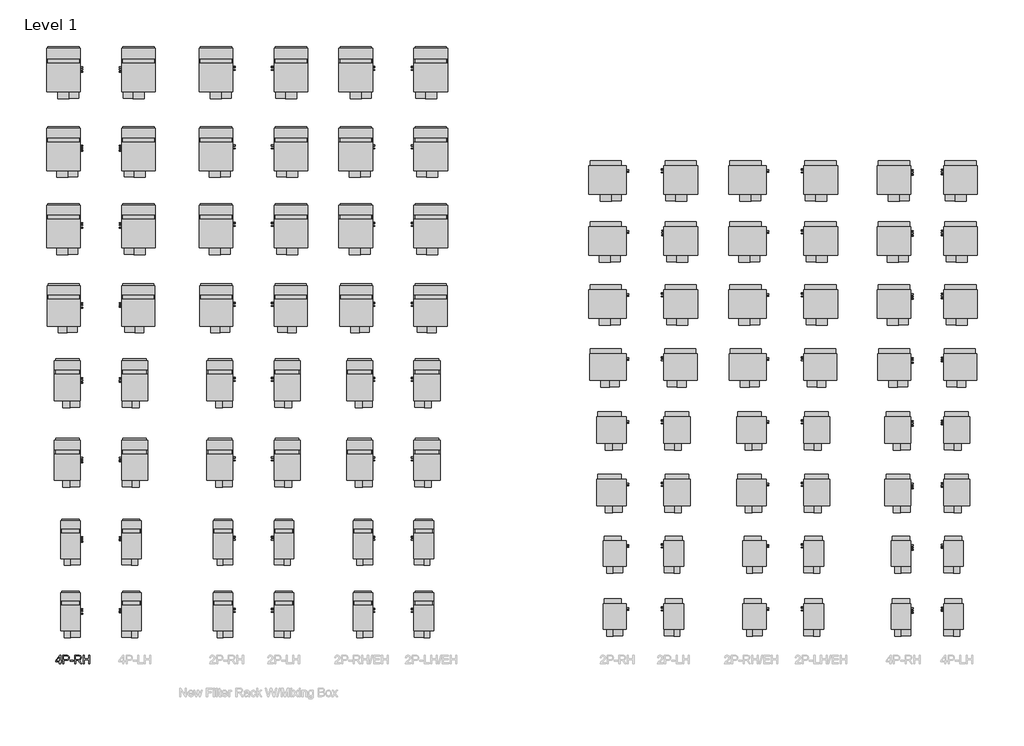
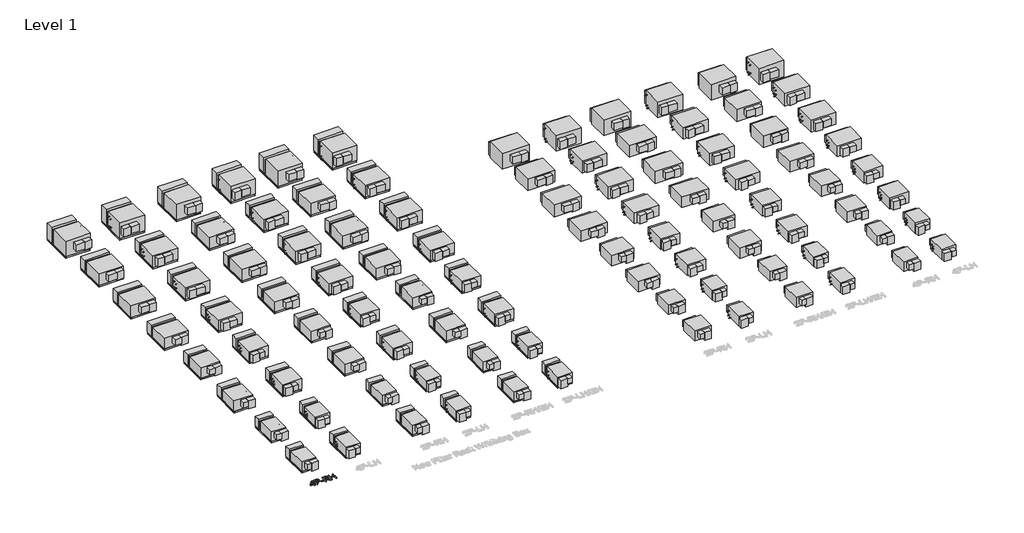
# One storey, part 1 of 3: 97 proxies.
"""IFC4 building model written with IfcOpenShell, lengths in millimetres."""

from ifc_helpers import new_model, si_unit, frame, origin, place, context, project, spatial, polyline, outline, extrude, transform, mapped, element, save
from components import mechanical_equipment_5b5a3d8c, mechanical_equipment_4589439a, mechanical_equipment_856d1f65, mechanical_equipment_ee0adb7a, mechanical_equipment_8eea2e23, mechanical_equipment_e72ba846, mechanical_equipment_ac6293c1, mechanical_equipment_eb9e6e73, mechanical_equipment_0b7b95ba, mechanical_equipment_1df3aa0c, mechanical_equipment_ef40f588, mechanical_equipment_6f507d88, mechanical_equipment_deafffc9, mechanical_equipment_b93dabfb, mechanical_equipment_bab576e5, mechanical_equipment_4b47fb68, mechanical_equipment_84091f5d, mechanical_equipment_c9cec046, mechanical_equipment_6f3378f6, mechanical_equipment_5e05b3fe, mechanical_equipment_9a06b835, mechanical_equipment_32fd8639, mechanical_equipment_eb787f7f, mechanical_equipment_c15f7967, mechanical_equipment_e2a74134, mechanical_equipment_f30141e5, mechanical_equipment_1eb6b717, mechanical_equipment_b74952a9, mechanical_equipment_e52b0f82, mechanical_equipment_f7677014, mechanical_equipment_0e213d63, mechanical_equipment_8ebf37a6, mechanical_equipment_2bbc750a, mechanical_equipment_9a64f870, mechanical_equipment_3ddea443, mechanical_equipment_db932000, mechanical_equipment_160c7145, mechanical_equipment_b177c8d8, mechanical_equipment_4713f80c, mechanical_equipment_2b0987d8

model = new_model("IFC4")

# Units and contexts
model_context = context("Model", 3, world=origin())
ifc_project = project(units=[si_unit("LENGTHUNIT", "METRE", prefix="MILLI")], contexts=[model_context])

# Site, building, storey
site = spatial("IfcSite", under=ifc_project)
building = spatial("IfcBuilding", under=site)
storey = spatial("IfcBuildingStorey", under=building, Name="Level 1", Elevation=0.0)

# Proxies
placement = place(None, origin())
mechanical_equipment_shape = mechanical_equipment_5b5a3d8c(model_context)
element("IfcBuildingElementProxy", 1, Name="Horizontal_Direct_Drive_Blower_Coil_Unit_-_42DHA_-_CARRIER_-_2-Pipe_Cool-EHeat_LH_2022 : Size 06 - 460v/60Hz/3Ph - 8 Row 6.0kW LH", ObjectType="Horizontal_Direct_Drive_Blower_Coil_Unit_-_42DHA_-_CARRIER_-_2-Pipe_Cool-EHeat_LH_2022 : Size 06 - 460v/60Hz/3Ph - 8 Row 6.0kW LH", at=placement, inside=storey, context=model_context, shape_type="MappedRepresentation", body=[
    mapped(mechanical_equipment_shape, transform((-13746.5319562, -11276.088413, 0.0), x_axis=(1.0, 0.0, 0.0), y_axis=(0.0, 1.0, 0.0), z_axis=(0.0, 0.0, 1.0))),
])
element("IfcBuildingElementProxy", 2, Name="Horizontal_Direct_Drive_Blower_Coil_Unit_-_42DHA_-_CARRIER_-_2-Pipe_Cool-EHeat_LH_2022 : Size 08 - 460v/60Hz/3Ph - 8 Row 8.0kW LH", ObjectType="Horizontal_Direct_Drive_Blower_Coil_Unit_-_42DHA_-_CARRIER_-_2-Pipe_Cool-EHeat_LH_2022 : Size 08 - 460v/60Hz/3Ph - 8 Row 8.0kW LH", at=placement, inside=storey, context=model_context, shape_type="MappedRepresentation", body=[
    mapped(mechanical_equipment_shape, transform((-13746.5319562, -9011.7611308, 0.0), x_axis=(1.0, 0.0, 0.0), y_axis=(0.0, 1.0, 0.0), z_axis=(0.0, 0.0, 1.0))),
])
mechanical_equipment_2_shape = mechanical_equipment_4589439a(model_context)
element("IfcBuildingElementProxy", 3, Name="Horizontal_Direct_Drive_Blower_Coil_Unit_-_42DHA_-_CARRIER_-_2-Pipe_Cool-EHeat_LH_2022 : Size 10 - 460v/60Hz/3Ph - 8 Row 9.9kW LH", ObjectType="Horizontal_Direct_Drive_Blower_Coil_Unit_-_42DHA_-_CARRIER_-_2-Pipe_Cool-EHeat_LH_2022 : Size 10 - 460v/60Hz/3Ph - 8 Row 9.9kW LH", at=placement, inside=storey, context=model_context, shape_type="MappedRepresentation", body=[
    mapped(mechanical_equipment_2_shape, transform((-13746.5319562, -6799.1440762, 0.0), x_axis=(1.0, 0.0, 0.0), y_axis=(0.0, 1.0, 0.0), z_axis=(0.0, 0.0, 1.0))),
])
element("IfcBuildingElementProxy", 4, Name="Horizontal_Direct_Drive_Blower_Coil_Unit_-_42DHA_-_CARRIER_-_2-Pipe_Cool-EHeat_LH_2022 : Size 12 - 460v/60Hz/3Ph - 8 Row 12.0kW LH", ObjectType="Horizontal_Direct_Drive_Blower_Coil_Unit_-_42DHA_-_CARRIER_-_2-Pipe_Cool-EHeat_LH_2022 : Size 12 - 460v/60Hz/3Ph - 8 Row 12.0kW LH", at=placement, inside=storey, context=model_context, shape_type="MappedRepresentation", body=[
    mapped(mechanical_equipment_2_shape, transform((-13746.5319562, -4546.6101653, 0.0), x_axis=(1.0, 0.0, 0.0), y_axis=(0.0, 1.0, 0.0), z_axis=(0.0, 0.0, 1.0))),
])
mechanical_equipment_3_shape = mechanical_equipment_856d1f65(model_context)
element("IfcBuildingElementProxy", 5, Name="Horizontal_Direct_Drive_Blower_Coil_Unit_-_42DHA_-_CARRIER_-_2-Pipe_Cool-EHeat_LH_2022 : Size 16 - 460v/60Hz/3Ph - 8 Row 16.0kW LH", ObjectType="Horizontal_Direct_Drive_Blower_Coil_Unit_-_42DHA_-_CARRIER_-_2-Pipe_Cool-EHeat_LH_2022 : Size 16 - 460v/60Hz/3Ph - 8 Row 16.0kW LH", at=placement, inside=storey, context=model_context, shape_type="MappedRepresentation", body=[
    mapped(mechanical_equipment_3_shape, transform((-13746.5319562, -2279.1078831, 0.0), x_axis=(1.0, 0.0, 0.0), y_axis=(0.0, 1.0, 0.0), z_axis=(0.0, 0.0, 1.0))),
])
mechanical_equipment_4_shape = mechanical_equipment_ee0adb7a(model_context)
element("IfcBuildingElementProxy", 6, Name="Horizontal_Direct_Drive_Blower_Coil_Unit_-_42DHA_-_CARRIER_-_2-Pipe_Cool-EHeat_LH_2022 : Size 20 - 460v/60Hz/3Ph - 8 Row 19.9kW LH", ObjectType="Horizontal_Direct_Drive_Blower_Coil_Unit_-_42DHA_-_CARRIER_-_2-Pipe_Cool-EHeat_LH_2022 : Size 20 - 460v/60Hz/3Ph - 8 Row 19.9kW LH", at=placement, inside=storey, context=model_context, shape_type="MappedRepresentation", body=[
    mapped(mechanical_equipment_4_shape, transform((-13746.5319562, 16.969399, 0.0), x_axis=(1.0, 0.0, 0.0), y_axis=(0.0, 1.0, 0.0), z_axis=(0.0, 0.0, 1.0))),
])
element("IfcBuildingElementProxy", 7, Name="Horizontal_Direct_Drive_Blower_Coil_Unit_-_42DHA_-_CARRIER_-_2-Pipe_Cool-EHeat_LH_2022 : Size 22 - 460v/60Hz/3Ph - 8 Row 19.9kW LH", ObjectType="Horizontal_Direct_Drive_Blower_Coil_Unit_-_42DHA_-_CARRIER_-_2-Pipe_Cool-EHeat_LH_2022 : Size 22 - 460v/60Hz/3Ph - 8 Row 19.9kW LH", at=placement, inside=storey, context=model_context, shape_type="MappedRepresentation", body=[
    mapped(mechanical_equipment_4_shape, transform((-13746.5319562, 2283.6722345, 0.0), x_axis=(1.0, 0.0, 0.0), y_axis=(0.0, 1.0, 0.0), z_axis=(0.0, 0.0, 1.0))),
])
mechanical_equipment_5_shape = mechanical_equipment_8eea2e23(model_context)
element("IfcBuildingElementProxy", 8, Name="Horizontal_Direct_Drive_Blower_Coil_Unit_-_42DHA_-_CARRIER_-_2-Pipe_Cool-EHeat_LH_2022 : Size 30 - 460v/60Hz/3Ph - 8 Row 30.0kW LH", ObjectType="Horizontal_Direct_Drive_Blower_Coil_Unit_-_42DHA_-_CARRIER_-_2-Pipe_Cool-EHeat_LH_2022 : Size 30 - 460v/60Hz/3Ph - 8 Row 30.0kW LH", at=placement, inside=storey, context=model_context, shape_type="MappedRepresentation", body=[
    mapped(mechanical_equipment_5_shape, transform((-13746.5319562, 4477.8237983, 0.0), x_axis=(1.0, 0.0, 0.0), y_axis=(0.0, 1.0, 0.0), z_axis=(0.0, 0.0, 1.0))),
])
mechanical_equipment_6_shape = mechanical_equipment_e72ba846(model_context)
element("IfcBuildingElementProxy", 9, Name="Horizontal_Direct_Drive_Blower_Coil_Unit_-_42DHA_-_CARRIER_-_2-Pipe_Cool-EHeat_RH_2022 : Size 06 - 460v/60Hz/3Ph - 8 Row 6.0kW", ObjectType="Horizontal_Direct_Drive_Blower_Coil_Unit_-_42DHA_-_CARRIER_-_2-Pipe_Cool-EHeat_RH_2022 : Size 06 - 460v/60Hz/3Ph - 8 Row 6.0kW", at=placement, inside=storey, context=model_context, shape_type="MappedRepresentation", body=[
    mapped(mechanical_equipment_6_shape, transform((-15935.274823, -11276.088413, 0.0), x_axis=(1.0, 0.0, 0.0), y_axis=(0.0, 1.0, 0.0), z_axis=(0.0, 0.0, 1.0))),
])
element("IfcBuildingElementProxy", 10, Name="Horizontal_Direct_Drive_Blower_Coil_Unit_-_42DHA_-_CARRIER_-_2-Pipe_Cool-EHeat_RH_2022 : Size 08 - 460v/60Hz/3Ph - 8 Row 8.0kW", ObjectType="Horizontal_Direct_Drive_Blower_Coil_Unit_-_42DHA_-_CARRIER_-_2-Pipe_Cool-EHeat_RH_2022 : Size 08 - 460v/60Hz/3Ph - 8 Row 8.0kW", at=placement, inside=storey, context=model_context, shape_type="MappedRepresentation", body=[
    mapped(mechanical_equipment_6_shape, transform((-15935.274823, -9011.7611308, 0.0), x_axis=(1.0, 0.0, 0.0), y_axis=(0.0, 1.0, 0.0), z_axis=(0.0, 0.0, 1.0))),
])
element("IfcBuildingElementProxy", 11, Name="Horizontal_Direct_Drive_Blower_Coil_Unit_-_42DHA_-_CARRIER_-_2-Pipe_Cool-EHeat_RH_2022 : Size 08 - 460v/60Hz/3Ph - 8 Row 8.0kW", ObjectType="Horizontal_Direct_Drive_Blower_Coil_Unit_-_42DHA_-_CARRIER_-_2-Pipe_Cool-EHeat_RH_2022 : Size 08 - 460v/60Hz/3Ph - 8 Row 8.0kW", at=placement, inside=storey, context=model_context, shape_type="MappedRepresentation", body=[
    mapped(mechanical_equipment_6_shape, transform((-20964.474823, -9011.7611308, 0.0), x_axis=(1.0, 0.0, 0.0), y_axis=(0.0, 1.0, 0.0), z_axis=(0.0, 0.0, 1.0))),
])
mechanical_equipment_7_shape = mechanical_equipment_ac6293c1(model_context)
element("IfcBuildingElementProxy", 12, Name="Horizontal_Direct_Drive_Blower_Coil_Unit_-_42DHA_-_CARRIER_-_2-Pipe_Cool-EHeat_RH_2022 : Size 10 - 460v/60Hz/3Ph - 8 Row 9.9kW", ObjectType="Horizontal_Direct_Drive_Blower_Coil_Unit_-_42DHA_-_CARRIER_-_2-Pipe_Cool-EHeat_RH_2022 : Size 10 - 460v/60Hz/3Ph - 8 Row 9.9kW", at=placement, inside=storey, context=model_context, shape_type="MappedRepresentation", body=[
    mapped(mechanical_equipment_7_shape, transform((-16163.874823, -6799.1440762, 0.0), x_axis=(1.0, 0.0, 0.0), y_axis=(0.0, 1.0, 0.0), z_axis=(0.0, 0.0, 1.0))),
])
element("IfcBuildingElementProxy", 13, Name="Horizontal_Direct_Drive_Blower_Coil_Unit_-_42DHA_-_CARRIER_-_2-Pipe_Cool-EHeat_RH_2022 : Size 12 - 460v/60Hz/3Ph - 8 Row 12.0kW", ObjectType="Horizontal_Direct_Drive_Blower_Coil_Unit_-_42DHA_-_CARRIER_-_2-Pipe_Cool-EHeat_RH_2022 : Size 12 - 460v/60Hz/3Ph - 8 Row 12.0kW", at=placement, inside=storey, context=model_context, shape_type="MappedRepresentation", body=[
    mapped(mechanical_equipment_7_shape, transform((-16163.874823, -4546.6101653, 0.0), x_axis=(1.0, 0.0, 0.0), y_axis=(0.0, 1.0, 0.0), z_axis=(0.0, 0.0, 1.0))),
])
mechanical_equipment_8_shape = mechanical_equipment_eb9e6e73(model_context)
element("IfcBuildingElementProxy", 14, Name="Horizontal_Direct_Drive_Blower_Coil_Unit_-_42DHA_-_CARRIER_-_2-Pipe_Cool-EHeat_RH_2022 : Size 16 - 460v/60Hz/3Ph - 8 Row 16.0kW", ObjectType="Horizontal_Direct_Drive_Blower_Coil_Unit_-_42DHA_-_CARRIER_-_2-Pipe_Cool-EHeat_RH_2022 : Size 16 - 460v/60Hz/3Ph - 8 Row 16.0kW", at=placement, inside=storey, context=model_context, shape_type="MappedRepresentation", body=[
    mapped(mechanical_equipment_8_shape, transform((-16417.874823, -2279.1078831, 0.0), x_axis=(1.0, 0.0, 0.0), y_axis=(0.0, 1.0, 0.0), z_axis=(0.0, 0.0, 1.0))),
])
mechanical_equipment_9_shape = mechanical_equipment_0b7b95ba(model_context)
element("IfcBuildingElementProxy", 15, Name="Horizontal_Direct_Drive_Blower_Coil_Unit_-_42DHA_-_CARRIER_-_2-Pipe_Cool-EHeat_RH_2022 : Size 20 - 460v/60Hz/3Ph - 8 Row 19.9kW", ObjectType="Horizontal_Direct_Drive_Blower_Coil_Unit_-_42DHA_-_CARRIER_-_2-Pipe_Cool-EHeat_RH_2022 : Size 20 - 460v/60Hz/3Ph - 8 Row 19.9kW", at=placement, inside=storey, context=model_context, shape_type="MappedRepresentation", body=[
    mapped(mechanical_equipment_9_shape, transform((-16443.274823, 16.969399, 0.0), x_axis=(1.0, 0.0, 0.0), y_axis=(0.0, 1.0, 0.0), z_axis=(0.0, 0.0, 1.0))),
])
element("IfcBuildingElementProxy", 16, Name="Horizontal_Direct_Drive_Blower_Coil_Unit_-_42DHA_-_CARRIER_-_2-Pipe_Cool-EHeat_RH_2022 : Size 22 - 460v/60Hz/3Ph - 8 Row 19.9kW", ObjectType="Horizontal_Direct_Drive_Blower_Coil_Unit_-_42DHA_-_CARRIER_-_2-Pipe_Cool-EHeat_RH_2022 : Size 22 - 460v/60Hz/3Ph - 8 Row 19.9kW", at=placement, inside=storey, context=model_context, shape_type="MappedRepresentation", body=[
    mapped(mechanical_equipment_9_shape, transform((-16443.274823, 2283.6722345, 0.0), x_axis=(1.0, 0.0, 0.0), y_axis=(0.0, 1.0, 0.0), z_axis=(0.0, 0.0, 1.0))),
])
mechanical_equipment_10_shape = mechanical_equipment_1df3aa0c(model_context)
element("IfcBuildingElementProxy", 17, Name="Horizontal_Direct_Drive_Blower_Coil_Unit_-_42DHA_-_CARRIER_-_2-Pipe_Cool-EHeat_RH_2022 : Size 30 - 460v/60Hz/3Ph - 8 Row 30.0kW", ObjectType="Horizontal_Direct_Drive_Blower_Coil_Unit_-_42DHA_-_CARRIER_-_2-Pipe_Cool-EHeat_RH_2022 : Size 30 - 460v/60Hz/3Ph - 8 Row 30.0kW", at=placement, inside=storey, context=model_context, shape_type="MappedRepresentation", body=[
    mapped(mechanical_equipment_10_shape, transform((-16443.274823, 4477.8237983, 0.0), x_axis=(1.0, 0.0, 0.0), y_axis=(0.0, 1.0, 0.0), z_axis=(0.0, 0.0, 1.0))),
])
mechanical_equipment_11_shape = mechanical_equipment_ef40f588(model_context)
element("IfcBuildingElementProxy", 18, Name="Horizontal_Direct_Drive_Blower_Coil_Unit_-_42DHA_-_CARRIER_-_4-Pipe_LH_2022 : Size 06 - 460v/60Hz/3Ph - 6/2 Coil", ObjectType="Horizontal_Direct_Drive_Blower_Coil_Unit_-_42DHA_-_CARRIER_-_4-Pipe_LH_2022 : Size 06 - 460v/60Hz/3Ph - 6/2 Coil", at=placement, inside=storey, context=model_context, shape_type="MappedRepresentation", body=[
    mapped(mechanical_equipment_11_shape, transform((-8717.3319562, -11276.088413, 0.0), x_axis=(1.0, 0.0, 0.0), y_axis=(0.0, 1.0, 0.0), z_axis=(0.0, 0.0, 1.0))),
])
element("IfcBuildingElementProxy", 19, Name="Horizontal_Direct_Drive_Blower_Coil_Unit_-_42DHA_-_CARRIER_-_4-Pipe_LH_2022 : Size 08 - 460v/60Hz/3Ph - 6/2 Coil", ObjectType="Horizontal_Direct_Drive_Blower_Coil_Unit_-_42DHA_-_CARRIER_-_4-Pipe_LH_2022 : Size 08 - 460v/60Hz/3Ph - 6/2 Coil", at=placement, inside=storey, context=model_context, shape_type="MappedRepresentation", body=[
    mapped(mechanical_equipment_11_shape, transform((-8717.3319562, -9011.7611308, 0.0), x_axis=(1.0, 0.0, 0.0), y_axis=(0.0, 1.0, 0.0), z_axis=(0.0, 0.0, 1.0))),
])
mechanical_equipment_12_shape = mechanical_equipment_6f507d88(model_context)
element("IfcBuildingElementProxy", 20, Name="Horizontal_Direct_Drive_Blower_Coil_Unit_-_42DHA_-_CARRIER_-_4-Pipe_LH_2022 : Size 10 - 460v/60Hz/3Ph - 6/2 Coil", ObjectType="Horizontal_Direct_Drive_Blower_Coil_Unit_-_42DHA_-_CARRIER_-_4-Pipe_LH_2022 : Size 10 - 460v/60Hz/3Ph - 6/2 Coil", at=placement, inside=storey, context=model_context, shape_type="MappedRepresentation", body=[
    mapped(mechanical_equipment_12_shape, transform((-8717.3319562, -6799.1440762, 0.0), x_axis=(1.0, 0.0, 0.0), y_axis=(0.0, 1.0, 0.0), z_axis=(0.0, 0.0, 1.0))),
])
element("IfcBuildingElementProxy", 21, Name="Horizontal_Direct_Drive_Blower_Coil_Unit_-_42DHA_-_CARRIER_-_4-Pipe_LH_2022 : Size 12 - 460v/60Hz/3Ph - 6/2 Coil", ObjectType="Horizontal_Direct_Drive_Blower_Coil_Unit_-_42DHA_-_CARRIER_-_4-Pipe_LH_2022 : Size 12 - 460v/60Hz/3Ph - 6/2 Coil", at=placement, inside=storey, context=model_context, shape_type="MappedRepresentation", body=[
    mapped(mechanical_equipment_12_shape, transform((-8717.3319562, -4546.6101653, 0.0), x_axis=(1.0, 0.0, 0.0), y_axis=(0.0, 1.0, 0.0), z_axis=(0.0, 0.0, 1.0))),
])
mechanical_equipment_13_shape = mechanical_equipment_deafffc9(model_context)
element("IfcBuildingElementProxy", 22, Name="Horizontal_Direct_Drive_Blower_Coil_Unit_-_42DHA_-_CARRIER_-_4-Pipe_LH_2022 : Size 16 - 460v/60Hz/3Ph - 6/2 Coil", ObjectType="Horizontal_Direct_Drive_Blower_Coil_Unit_-_42DHA_-_CARRIER_-_4-Pipe_LH_2022 : Size 16 - 460v/60Hz/3Ph - 6/2 Coil", at=placement, inside=storey, context=model_context, shape_type="MappedRepresentation", body=[
    mapped(mechanical_equipment_13_shape, transform((-8717.3319562, -2279.1078831, 0.0), x_axis=(1.0, 0.0, 0.0), y_axis=(0.0, 1.0, 0.0), z_axis=(0.0, 0.0, 1.0))),
])
mechanical_equipment_14_shape = mechanical_equipment_b93dabfb(model_context)
element("IfcBuildingElementProxy", 23, Name="Horizontal_Direct_Drive_Blower_Coil_Unit_-_42DHA_-_CARRIER_-_4-Pipe_LH_2022 : Size 20 - 460v/60Hz/3Ph - 6/2 Coil", ObjectType="Horizontal_Direct_Drive_Blower_Coil_Unit_-_42DHA_-_CARRIER_-_4-Pipe_LH_2022 : Size 20 - 460v/60Hz/3Ph - 6/2 Coil", at=placement, inside=storey, context=model_context, shape_type="MappedRepresentation", body=[
    mapped(mechanical_equipment_14_shape, transform((-8717.3319562, 16.969399, 0.0), x_axis=(1.0, 0.0, 0.0), y_axis=(0.0, 1.0, 0.0), z_axis=(0.0, 0.0, 1.0))),
])
element("IfcBuildingElementProxy", 24, Name="Horizontal_Direct_Drive_Blower_Coil_Unit_-_42DHA_-_CARRIER_-_4-Pipe_LH_2022 : Size 22 - 460v/60Hz/3Ph - 6/2 Coil", ObjectType="Horizontal_Direct_Drive_Blower_Coil_Unit_-_42DHA_-_CARRIER_-_4-Pipe_LH_2022 : Size 22 - 460v/60Hz/3Ph - 6/2 Coil", at=placement, inside=storey, context=model_context, shape_type="MappedRepresentation", body=[
    mapped(mechanical_equipment_14_shape, transform((-8717.3319562, 2283.6722345, 0.0), x_axis=(1.0, 0.0, 0.0), y_axis=(0.0, 1.0, 0.0), z_axis=(0.0, 0.0, 1.0))),
])
element("IfcBuildingElementProxy", 25, Name="Horizontal_Direct_Drive_Blower_Coil_Unit_-_42DHA_-_CARRIER_-_4-Pipe_LH_2022 : Size 22 - 460v/60Hz/3Ph - 6/2 Coil", ObjectType="Horizontal_Direct_Drive_Blower_Coil_Unit_-_42DHA_-_CARRIER_-_4-Pipe_LH_2022 : Size 22 - 460v/60Hz/3Ph - 6/2 Coil", at=placement, inside=storey, context=model_context, shape_type="MappedRepresentation", body=[
    mapped(mechanical_equipment_14_shape, transform((-18775.7319562, 2283.6722345, 0.0), x_axis=(1.0, 0.0, 0.0), y_axis=(0.0, 1.0, 0.0), z_axis=(0.0, 0.0, 1.0))),
])
mechanical_equipment_15_shape = mechanical_equipment_bab576e5(model_context)
element("IfcBuildingElementProxy", 26, Name="Horizontal_Direct_Drive_Blower_Coil_Unit_-_42DHA_-_CARRIER_-_4-Pipe_LH_2022 : Size 30 - 460v/60Hz/3Ph - 6/2 Coil", ObjectType="Horizontal_Direct_Drive_Blower_Coil_Unit_-_42DHA_-_CARRIER_-_4-Pipe_LH_2022 : Size 30 - 460v/60Hz/3Ph - 6/2 Coil", at=placement, inside=storey, context=model_context, shape_type="MappedRepresentation", body=[
    mapped(mechanical_equipment_15_shape, transform((-8717.3319562, 4477.8237983, 0.0), x_axis=(1.0, 0.0, 0.0), y_axis=(0.0, 1.0, 0.0), z_axis=(0.0, 0.0, 1.0))),
])
mechanical_equipment_16_shape = mechanical_equipment_4b47fb68(model_context)
element("IfcBuildingElementProxy", 27, Name="Horizontal_Direct_Drive_Blower_Coil_Unit_-_42DHA_-_CARRIER_-_4-Pipe_RH_2022 : Size 06 - 460v/60Hz/3Ph - 6/2 Coil", ObjectType="Horizontal_Direct_Drive_Blower_Coil_Unit_-_42DHA_-_CARRIER_-_4-Pipe_RH_2022 : Size 06 - 460v/60Hz/3Ph - 6/2 Coil", at=placement, inside=storey, context=model_context, shape_type="MappedRepresentation", body=[
    mapped(mechanical_equipment_16_shape, transform((-10601.274823, -11276.088413, 0.0), x_axis=(1.0, 0.0, 0.0), y_axis=(0.0, 1.0, 0.0), z_axis=(0.0, 0.0, 1.0))),
])
element("IfcBuildingElementProxy", 28, Name="Horizontal_Direct_Drive_Blower_Coil_Unit_-_42DHA_-_CARRIER_-_4-Pipe_RH_2022 : Size 08 - 460v/60Hz/3Ph - 6/2 Coil", ObjectType="Horizontal_Direct_Drive_Blower_Coil_Unit_-_42DHA_-_CARRIER_-_4-Pipe_RH_2022 : Size 08 - 460v/60Hz/3Ph - 6/2 Coil", at=placement, inside=storey, context=model_context, shape_type="MappedRepresentation", body=[
    mapped(mechanical_equipment_16_shape, transform((-10601.274823, -9011.7611308, 0.0), x_axis=(1.0, 0.0, 0.0), y_axis=(0.0, 1.0, 0.0), z_axis=(0.0, 0.0, 1.0))),
])
mechanical_equipment_17_shape = mechanical_equipment_84091f5d(model_context)
element("IfcBuildingElementProxy", 29, Name="Horizontal_Direct_Drive_Blower_Coil_Unit_-_42DHA_-_CARRIER_-_4-Pipe_RH_2022 : Size 10 - 460v/60Hz/3Ph - 6/2 Coil", ObjectType="Horizontal_Direct_Drive_Blower_Coil_Unit_-_42DHA_-_CARRIER_-_4-Pipe_RH_2022 : Size 10 - 460v/60Hz/3Ph - 6/2 Coil", at=placement, inside=storey, context=model_context, shape_type="MappedRepresentation", body=[
    mapped(mechanical_equipment_17_shape, transform((-10829.874823, -6799.1440762, 0.0), x_axis=(1.0, 0.0, 0.0), y_axis=(0.0, 1.0, 0.0), z_axis=(0.0, 0.0, 1.0))),
])
element("IfcBuildingElementProxy", 30, Name="Horizontal_Direct_Drive_Blower_Coil_Unit_-_42DHA_-_CARRIER_-_4-Pipe_RH_2022 : Size 12 - 460v/60Hz/3Ph - 6/2 Coil", ObjectType="Horizontal_Direct_Drive_Blower_Coil_Unit_-_42DHA_-_CARRIER_-_4-Pipe_RH_2022 : Size 12 - 460v/60Hz/3Ph - 6/2 Coil", at=placement, inside=storey, context=model_context, shape_type="MappedRepresentation", body=[
    mapped(mechanical_equipment_17_shape, transform((-10829.874823, -4546.6101653, 0.0), x_axis=(1.0, 0.0, 0.0), y_axis=(0.0, 1.0, 0.0), z_axis=(0.0, 0.0, 1.0))),
])
mechanical_equipment_18_shape = mechanical_equipment_c9cec046(model_context)
element("IfcBuildingElementProxy", 31, Name="Horizontal_Direct_Drive_Blower_Coil_Unit_-_42DHA_-_CARRIER_-_4-Pipe_RH_2022 : Size 16 - 460v/60Hz/3Ph - 6/2 Coil", ObjectType="Horizontal_Direct_Drive_Blower_Coil_Unit_-_42DHA_-_CARRIER_-_4-Pipe_RH_2022 : Size 16 - 460v/60Hz/3Ph - 6/2 Coil", at=placement, inside=storey, context=model_context, shape_type="MappedRepresentation", body=[
    mapped(mechanical_equipment_18_shape, transform((-11083.874823, -2279.1078831, 0.0), x_axis=(1.0, 0.0, 0.0), y_axis=(0.0, 1.0, 0.0), z_axis=(0.0, 0.0, 1.0))),
])
mechanical_equipment_19_shape = mechanical_equipment_6f3378f6(model_context)
element("IfcBuildingElementProxy", 32, Name="Horizontal_Direct_Drive_Blower_Coil_Unit_-_42DHA_-_CARRIER_-_4-Pipe_RH_2022 : Size 20 - 460v/60Hz/3Ph - 6/2 Coil", ObjectType="Horizontal_Direct_Drive_Blower_Coil_Unit_-_42DHA_-_CARRIER_-_4-Pipe_RH_2022 : Size 20 - 460v/60Hz/3Ph - 6/2 Coil", at=placement, inside=storey, context=model_context, shape_type="MappedRepresentation", body=[
    mapped(mechanical_equipment_19_shape, transform((-11109.274823, 16.969399, 0.0), x_axis=(1.0, 0.0, 0.0), y_axis=(0.0, 1.0, 0.0), z_axis=(0.0, 0.0, 1.0))),
])
element("IfcBuildingElementProxy", 33, Name="Horizontal_Direct_Drive_Blower_Coil_Unit_-_42DHA_-_CARRIER_-_4-Pipe_RH_2022 : Size 22 - 460v/60Hz/3Ph - 6/2 Coil", ObjectType="Horizontal_Direct_Drive_Blower_Coil_Unit_-_42DHA_-_CARRIER_-_4-Pipe_RH_2022 : Size 22 - 460v/60Hz/3Ph - 6/2 Coil", at=placement, inside=storey, context=model_context, shape_type="MappedRepresentation", body=[
    mapped(mechanical_equipment_19_shape, transform((-11109.274823, 2283.6722345, 0.0), x_axis=(1.0, 0.0, 0.0), y_axis=(0.0, 1.0, 0.0), z_axis=(0.0, 0.0, 1.0))),
])
mechanical_equipment_20_shape = mechanical_equipment_5e05b3fe(model_context)
element("IfcBuildingElementProxy", 34, Name="Horizontal_Direct_Drive_Blower_Coil_Unit_-_42DHA_-_CARRIER_-_4-Pipe_RH_2022 : Size 30 - 460v/60Hz/3Ph - 6/2 Coil", ObjectType="Horizontal_Direct_Drive_Blower_Coil_Unit_-_42DHA_-_CARRIER_-_4-Pipe_RH_2022 : Size 30 - 460v/60Hz/3Ph - 6/2 Coil", at=placement, inside=storey, context=model_context, shape_type="MappedRepresentation", body=[
    mapped(mechanical_equipment_20_shape, transform((-11109.274823, 4477.8237983, 0.0), x_axis=(1.0, 0.0, 0.0), y_axis=(0.0, 1.0, 0.0), z_axis=(0.0, 0.0, 1.0))),
])
element("IfcBuildingElementProxy", 35, Name="Horizontal_Direct_Drive_Blower_Coil_Unit_-_42DHA_-_CARRIER_-_2-Pipe_LH_2022 : Size 06 - 460v/60Hz/3Ph - 8 Row 1.0kW LH", ObjectType="Horizontal_Direct_Drive_Blower_Coil_Unit_-_42DHA_-_CARRIER_-_2-Pipe_LH_2022 : Size 06 - 460v/60Hz/3Ph - 8 Row 1.0kW LH", at=placement, inside=storey, context=model_context, shape_type="MappedRepresentation", body=[
    mapped(mechanical_equipment_shape, transform((-18775.7319562, -11276.088413, 0.0), x_axis=(1.0, 0.0, 0.0), y_axis=(0.0, 1.0, 0.0), z_axis=(0.0, 0.0, 1.0))),
])
element("IfcBuildingElementProxy", 36, Name="Horizontal_Direct_Drive_Blower_Coil_Unit_-_42DHA_-_CARRIER_-_2-Pipe_LH_2022 : Size 08 - 460v/60Hz/3Ph - 8 Row 1.0kW LH", ObjectType="Horizontal_Direct_Drive_Blower_Coil_Unit_-_42DHA_-_CARRIER_-_2-Pipe_LH_2022 : Size 08 - 460v/60Hz/3Ph - 8 Row 1.0kW LH", at=placement, inside=storey, context=model_context, shape_type="MappedRepresentation", body=[
    mapped(mechanical_equipment_shape, transform((-18775.7319562, -9011.7611308, 0.0), x_axis=(1.0, 0.0, 0.0), y_axis=(0.0, 1.0, 0.0), z_axis=(0.0, 0.0, 1.0))),
])
element("IfcBuildingElementProxy", 37, Name="Horizontal_Direct_Drive_Blower_Coil_Unit_-_42DHA_-_CARRIER_-_2-Pipe_LH_2022 : Size 10 - 460v/60Hz/3Ph - 8 Row 1.5kW LH", ObjectType="Horizontal_Direct_Drive_Blower_Coil_Unit_-_42DHA_-_CARRIER_-_2-Pipe_LH_2022 : Size 10 - 460v/60Hz/3Ph - 8 Row 1.5kW LH", at=placement, inside=storey, context=model_context, shape_type="MappedRepresentation", body=[
    mapped(mechanical_equipment_2_shape, transform((-18775.7319562, -6799.1440762, 0.0), x_axis=(1.0, 0.0, 0.0), y_axis=(0.0, 1.0, 0.0), z_axis=(0.0, 0.0, 1.0))),
])
element("IfcBuildingElementProxy", 38, Name="Horizontal_Direct_Drive_Blower_Coil_Unit_-_42DHA_-_CARRIER_-_2-Pipe_LH_2022 : Size 12 - 460v/60Hz/3Ph - 8 Row 1.5kW LH", ObjectType="Horizontal_Direct_Drive_Blower_Coil_Unit_-_42DHA_-_CARRIER_-_2-Pipe_LH_2022 : Size 12 - 460v/60Hz/3Ph - 8 Row 1.5kW LH", at=placement, inside=storey, context=model_context, shape_type="MappedRepresentation", body=[
    mapped(mechanical_equipment_2_shape, transform((-18775.7319562, -4546.6101653, 0.0), x_axis=(1.0, 0.0, 0.0), y_axis=(0.0, 1.0, 0.0), z_axis=(0.0, 0.0, 1.0))),
])
element("IfcBuildingElementProxy", 39, Name="Horizontal_Direct_Drive_Blower_Coil_Unit_-_42DHA_-_CARRIER_-_2-Pipe_LH_2022 : Size 16 - 460v/60Hz/3Ph - 8 Row 2.5kW LH", ObjectType="Horizontal_Direct_Drive_Blower_Coil_Unit_-_42DHA_-_CARRIER_-_2-Pipe_LH_2022 : Size 16 - 460v/60Hz/3Ph - 8 Row 2.5kW LH", at=placement, inside=storey, context=model_context, shape_type="MappedRepresentation", body=[
    mapped(mechanical_equipment_3_shape, transform((-18775.7319562, -2279.1078831, 0.0), x_axis=(1.0, 0.0, 0.0), y_axis=(0.0, 1.0, 0.0), z_axis=(0.0, 0.0, 1.0))),
])
element("IfcBuildingElementProxy", 40, Name="Horizontal_Direct_Drive_Blower_Coil_Unit_-_42DHA_-_CARRIER_-_2-Pipe_LH_2022 : Size 20 - 460v/60Hz/3Ph - 8 Row 3.5kW LH", ObjectType="Horizontal_Direct_Drive_Blower_Coil_Unit_-_42DHA_-_CARRIER_-_2-Pipe_LH_2022 : Size 20 - 460v/60Hz/3Ph - 8 Row 3.5kW LH", at=placement, inside=storey, context=model_context, shape_type="MappedRepresentation", body=[
    mapped(mechanical_equipment_4_shape, transform((-18775.7319562, 16.969399, 0.0), x_axis=(1.0, 0.0, 0.0), y_axis=(0.0, 1.0, 0.0), z_axis=(0.0, 0.0, 1.0))),
])
element("IfcBuildingElementProxy", 41, Name="Horizontal_Direct_Drive_Blower_Coil_Unit_-_42DHA_-_CARRIER_-_2-Pipe_LH_2022 : Size 30 - 460v/60Hz/3Ph - 8 Row 6.0kW LH", ObjectType="Horizontal_Direct_Drive_Blower_Coil_Unit_-_42DHA_-_CARRIER_-_2-Pipe_LH_2022 : Size 30 - 460v/60Hz/3Ph - 8 Row 6.0kW LH", at=placement, inside=storey, context=model_context, shape_type="MappedRepresentation", body=[
    mapped(mechanical_equipment_5_shape, transform((-18775.7319562, 4477.8237983, 0.0), x_axis=(1.0, 0.0, 0.0), y_axis=(0.0, 1.0, 0.0), z_axis=(0.0, 0.0, 1.0))),
])
element("IfcBuildingElementProxy", 42, Name="Horizontal_Direct_Drive_Blower_Coil_Unit_-_42DHA_-_CARRIER_-_2-Pipe_RH_2022 : Size 06 - 460v/60Hz/3Ph - 8 Row 6.0kW", ObjectType="Horizontal_Direct_Drive_Blower_Coil_Unit_-_42DHA_-_CARRIER_-_2-Pipe_RH_2022 : Size 06 - 460v/60Hz/3Ph - 8 Row 6.0kW", at=placement, inside=storey, context=model_context, shape_type="MappedRepresentation", body=[
    mapped(mechanical_equipment_6_shape, transform((-20964.474823, -11276.088413, 0.0), x_axis=(1.0, 0.0, 0.0), y_axis=(0.0, 1.0, 0.0), z_axis=(0.0, 0.0, 1.0))),
])
element("IfcBuildingElementProxy", 43, Name="Horizontal_Direct_Drive_Blower_Coil_Unit_-_42DHA_-_CARRIER_-_2-Pipe_RH_2022 : Size 10 - 460v/60Hz/3Ph - 8 Row 9.9kW", ObjectType="Horizontal_Direct_Drive_Blower_Coil_Unit_-_42DHA_-_CARRIER_-_2-Pipe_RH_2022 : Size 10 - 460v/60Hz/3Ph - 8 Row 9.9kW", at=placement, inside=storey, context=model_context, shape_type="MappedRepresentation", body=[
    mapped(mechanical_equipment_7_shape, transform((-21193.074823, -6799.1440762, 0.0), x_axis=(1.0, 0.0, 0.0), y_axis=(0.0, 1.0, 0.0), z_axis=(0.0, 0.0, 1.0))),
])
element("IfcBuildingElementProxy", 44, Name="Horizontal_Direct_Drive_Blower_Coil_Unit_-_42DHA_-_CARRIER_-_2-Pipe_RH_2022 : Size 12 - 460v/60Hz/3Ph - 8 Row 12.0kW", ObjectType="Horizontal_Direct_Drive_Blower_Coil_Unit_-_42DHA_-_CARRIER_-_2-Pipe_RH_2022 : Size 12 - 460v/60Hz/3Ph - 8 Row 12.0kW", at=placement, inside=storey, context=model_context, shape_type="MappedRepresentation", body=[
    mapped(mechanical_equipment_7_shape, transform((-21193.074823, -4546.6101653, 0.0), x_axis=(1.0, 0.0, 0.0), y_axis=(0.0, 1.0, 0.0), z_axis=(0.0, 0.0, 1.0))),
])
element("IfcBuildingElementProxy", 45, Name="Horizontal_Direct_Drive_Blower_Coil_Unit_-_42DHA_-_CARRIER_-_2-Pipe_RH_2022 : Size 16 - 460v/60Hz/3Ph - 8 Row 16.0kW", ObjectType="Horizontal_Direct_Drive_Blower_Coil_Unit_-_42DHA_-_CARRIER_-_2-Pipe_RH_2022 : Size 16 - 460v/60Hz/3Ph - 8 Row 16.0kW", at=placement, inside=storey, context=model_context, shape_type="MappedRepresentation", body=[
    mapped(mechanical_equipment_8_shape, transform((-21447.074823, -2279.1078831, 0.0), x_axis=(1.0, 0.0, 0.0), y_axis=(0.0, 1.0, 0.0), z_axis=(0.0, 0.0, 1.0))),
])
element("IfcBuildingElementProxy", 46, Name="Horizontal_Direct_Drive_Blower_Coil_Unit_-_42DHA_-_CARRIER_-_2-Pipe_RH_2022 : Size 20 - 460v/60Hz/3Ph - 8 Row 19.9kW", ObjectType="Horizontal_Direct_Drive_Blower_Coil_Unit_-_42DHA_-_CARRIER_-_2-Pipe_RH_2022 : Size 20 - 460v/60Hz/3Ph - 8 Row 19.9kW", at=placement, inside=storey, context=model_context, shape_type="MappedRepresentation", body=[
    mapped(mechanical_equipment_9_shape, transform((-21472.474823, 16.969399, 0.0), x_axis=(1.0, 0.0, 0.0), y_axis=(0.0, 1.0, 0.0), z_axis=(0.0, 0.0, 1.0))),
])
element("IfcBuildingElementProxy", 47, Name="Horizontal_Direct_Drive_Blower_Coil_Unit_-_42DHA_-_CARRIER_-_2-Pipe_RH_2022 : Size 22 - 460v/60Hz/3Ph - 8 Row 19.9kW", ObjectType="Horizontal_Direct_Drive_Blower_Coil_Unit_-_42DHA_-_CARRIER_-_2-Pipe_RH_2022 : Size 22 - 460v/60Hz/3Ph - 8 Row 19.9kW", at=placement, inside=storey, context=model_context, shape_type="MappedRepresentation", body=[
    mapped(mechanical_equipment_9_shape, transform((-21472.474823, 2283.6722345, 0.0), x_axis=(1.0, 0.0, 0.0), y_axis=(0.0, 1.0, 0.0), z_axis=(0.0, 0.0, 1.0))),
])
element("IfcBuildingElementProxy", 48, Name="Horizontal_Direct_Drive_Blower_Coil_Unit_-_42DHA_-_CARRIER_-_2-Pipe_RH_2022 : Size 30 - 460v/60Hz/3Ph - 8 Row 30.0kW", ObjectType="Horizontal_Direct_Drive_Blower_Coil_Unit_-_42DHA_-_CARRIER_-_2-Pipe_RH_2022 : Size 30 - 460v/60Hz/3Ph - 8 Row 30.0kW", at=placement, inside=storey, context=model_context, shape_type="MappedRepresentation", body=[
    mapped(mechanical_equipment_10_shape, transform((-21472.474823, 4477.8237983, 0.0), x_axis=(1.0, 0.0, 0.0), y_axis=(0.0, 1.0, 0.0), z_axis=(0.0, 0.0, 1.0))),
])
mechanical_equipment_21_shape = mechanical_equipment_9a06b835(model_context)
element("IfcBuildingElementProxy", 49, Name="Horizontal_Direct_Drive_Blower_Coil_Unit_-_42DHA_-_CARRIER_-_2-Pipe_Cool-EHeat_NFilterR_W-MixingBox_LH_2022 : Size 06 - 460v/60Hz/3Ph - 8 Row 6.0kW LH", ObjectType="Horizontal_Direct_Drive_Blower_Coil_Unit_-_42DHA_-_CARRIER_-_2-Pipe_Cool-EHeat_NFilterR_W-MixingBox_LH_2022 : Size 06 - 460v/60Hz/3Ph - 8 Row 6.0kW LH", at=placement, inside=storey, context=model_context, shape_type="MappedRepresentation", body=[
    mapped(mechanical_equipment_21_shape, transform((-27767.3319562, -11326.888413, 0.0), x_axis=(1.0, 0.0, 0.0), y_axis=(0.0, 1.0, 0.0), z_axis=(0.0, 0.0, 1.0))),
])
element("IfcBuildingElementProxy", 50, Name="Horizontal_Direct_Drive_Blower_Coil_Unit_-_42DHA_-_CARRIER_-_2-Pipe_Cool-EHeat_NFilterR_W-MixingBox_LH_2022 : Size 08 - 460v/60Hz/3Ph - 8 Row 8.0kW LH", ObjectType="Horizontal_Direct_Drive_Blower_Coil_Unit_-_42DHA_-_CARRIER_-_2-Pipe_Cool-EHeat_NFilterR_W-MixingBox_LH_2022 : Size 08 - 460v/60Hz/3Ph - 8 Row 8.0kW LH", at=placement, inside=storey, context=model_context, shape_type="MappedRepresentation", body=[
    mapped(mechanical_equipment_21_shape, transform((-27767.3319562, -8732.3611308, 0.0), x_axis=(1.0, 0.0, 0.0), y_axis=(0.0, 1.0, 0.0), z_axis=(0.0, 0.0, 1.0))),
])
mechanical_equipment_22_shape = mechanical_equipment_32fd8639(model_context)
element("IfcBuildingElementProxy", 51, Name="Horizontal_Direct_Drive_Blower_Coil_Unit_-_42DHA_-_CARRIER_-_2-Pipe_Cool-EHeat_NFilterR_W-MixingBox_LH_2022 : Size 10 - 460v/60Hz/3Ph - 8 Row 9.9kW LH", ObjectType="Horizontal_Direct_Drive_Blower_Coil_Unit_-_42DHA_-_CARRIER_-_2-Pipe_Cool-EHeat_NFilterR_W-MixingBox_LH_2022 : Size 10 - 460v/60Hz/3Ph - 8 Row 9.9kW LH", at=placement, inside=storey, context=model_context, shape_type="MappedRepresentation", body=[
    mapped(mechanical_equipment_22_shape, transform((-27767.3319562, -5884.7440762, 0.0), x_axis=(1.0, 0.0, 0.0), y_axis=(0.0, 1.0, 0.0), z_axis=(0.0, 0.0, 1.0))),
])
element("IfcBuildingElementProxy", 52, Name="Horizontal_Direct_Drive_Blower_Coil_Unit_-_42DHA_-_CARRIER_-_2-Pipe_Cool-EHeat_NFilterR_W-MixingBox_LH_2022 : Size 12 - 460v/60Hz/3Ph - 8 Row 12.0kW LH", ObjectType="Horizontal_Direct_Drive_Blower_Coil_Unit_-_42DHA_-_CARRIER_-_2-Pipe_Cool-EHeat_NFilterR_W-MixingBox_LH_2022 : Size 12 - 460v/60Hz/3Ph - 8 Row 12.0kW LH", at=placement, inside=storey, context=model_context, shape_type="MappedRepresentation", body=[
    mapped(mechanical_equipment_22_shape, transform((-27767.3319562, -3022.6101653, 0.0), x_axis=(1.0, 0.0, 0.0), y_axis=(0.0, 1.0, 0.0), z_axis=(0.0, 0.0, 1.0))),
])
mechanical_equipment_23_shape = mechanical_equipment_eb787f7f(model_context)
element("IfcBuildingElementProxy", 53, Name="Horizontal_Direct_Drive_Blower_Coil_Unit_-_42DHA_-_CARRIER_-_2-Pipe_Cool-EHeat_NFilterR_W-MixingBox_LH_2022 : Size 16 - 460v/60Hz/3Ph - 8 Row 16.0kW LH", ObjectType="Horizontal_Direct_Drive_Blower_Coil_Unit_-_42DHA_-_CARRIER_-_2-Pipe_Cool-EHeat_NFilterR_W-MixingBox_LH_2022 : Size 16 - 460v/60Hz/3Ph - 8 Row 16.0kW LH", at=placement, inside=storey, context=model_context, shape_type="MappedRepresentation", body=[
    mapped(mechanical_equipment_23_shape, transform((-27767.3319562, -323.3078831, 0.0), x_axis=(1.0, 0.0, 0.0), y_axis=(0.0, 1.0, 0.0), z_axis=(0.0, 0.0, 1.0))),
])
mechanical_equipment_24_shape = mechanical_equipment_c15f7967(model_context)
element("IfcBuildingElementProxy", 54, Name="Horizontal_Direct_Drive_Blower_Coil_Unit_-_42DHA_-_CARRIER_-_2-Pipe_Cool-EHeat_NFilterR_W-MixingBox_LH_2022 : Size 20 - 460v/60Hz/3Ph - 8 Row 19.9kW LH", ObjectType="Horizontal_Direct_Drive_Blower_Coil_Unit_-_42DHA_-_CARRIER_-_2-Pipe_Cool-EHeat_NFilterR_W-MixingBox_LH_2022 : Size 20 - 460v/60Hz/3Ph - 8 Row 19.9kW LH", at=placement, inside=storey, context=model_context, shape_type="MappedRepresentation", body=[
    mapped(mechanical_equipment_24_shape, transform((-27767.3319562, 2556.969399, 0.0), x_axis=(1.0, 0.0, 0.0), y_axis=(0.0, 1.0, 0.0), z_axis=(0.0, 0.0, 1.0))),
])
element("IfcBuildingElementProxy", 55, Name="Horizontal_Direct_Drive_Blower_Coil_Unit_-_42DHA_-_CARRIER_-_2-Pipe_Cool-EHeat_NFilterR_W-MixingBox_LH_2022 : Size 22 - 460v/60Hz/3Ph - 8 Row 19.9kW LH", ObjectType="Horizontal_Direct_Drive_Blower_Coil_Unit_-_42DHA_-_CARRIER_-_2-Pipe_Cool-EHeat_NFilterR_W-MixingBox_LH_2022 : Size 22 - 460v/60Hz/3Ph - 8 Row 19.9kW LH", at=placement, inside=storey, context=model_context, shape_type="MappedRepresentation", body=[
    mapped(mechanical_equipment_24_shape, transform((-27767.3319562, 5331.6722345, 0.0), x_axis=(1.0, 0.0, 0.0), y_axis=(0.0, 1.0, 0.0), z_axis=(0.0, 0.0, 1.0))),
])
mechanical_equipment_25_shape = mechanical_equipment_e2a74134(model_context)
element("IfcBuildingElementProxy", 56, Name="Horizontal_Direct_Drive_Blower_Coil_Unit_-_42DHA_-_CARRIER_-_2-Pipe_Cool-EHeat_NFilterR_W-MixingBox_LH_2022 : Size 30 - 460v/60Hz/3Ph - 8 Row 30.0kW LH", ObjectType="Horizontal_Direct_Drive_Blower_Coil_Unit_-_42DHA_-_CARRIER_-_2-Pipe_Cool-EHeat_NFilterR_W-MixingBox_LH_2022 : Size 30 - 460v/60Hz/3Ph - 8 Row 30.0kW LH", at=placement, inside=storey, context=model_context, shape_type="MappedRepresentation", body=[
    mapped(mechanical_equipment_25_shape, transform((-27767.3319562, 8162.0937983, 0.0), x_axis=(1.0, 0.0, 0.0), y_axis=(0.0, 1.0, 0.0), z_axis=(0.0, 0.0, 1.0))),
])
mechanical_equipment_26_shape = mechanical_equipment_f30141e5(model_context)
element("IfcBuildingElementProxy", 57, Name="Horizontal_Direct_Drive_Blower_Coil_Unit_-_42DHA_-_CARRIER_-_2-Pipe_Cool-EHeat_NFilterR_W-MixingBox_RH_2022 : Size 06 - 460v/60Hz/3Ph - 8 Row 6.0kW LH", ObjectType="Horizontal_Direct_Drive_Blower_Coil_Unit_-_42DHA_-_CARRIER_-_2-Pipe_Cool-EHeat_NFilterR_W-MixingBox_RH_2022 : Size 06 - 460v/60Hz/3Ph - 8 Row 6.0kW LH", at=placement, inside=storey, context=model_context, shape_type="MappedRepresentation", body=[
    mapped(mechanical_equipment_26_shape, transform((-29956.074823, -11326.888413, 0.0), x_axis=(1.0, 0.0, 0.0), y_axis=(0.0, 1.0, 0.0), z_axis=(0.0, 0.0, 1.0))),
])
element("IfcBuildingElementProxy", 58, Name="Horizontal_Direct_Drive_Blower_Coil_Unit_-_42DHA_-_CARRIER_-_2-Pipe_Cool-EHeat_NFilterR_W-MixingBox_RH_2022 : Size 08 - 460v/60Hz/3Ph - 8 Row 8.0kW LH", ObjectType="Horizontal_Direct_Drive_Blower_Coil_Unit_-_42DHA_-_CARRIER_-_2-Pipe_Cool-EHeat_NFilterR_W-MixingBox_RH_2022 : Size 08 - 460v/60Hz/3Ph - 8 Row 8.0kW LH", at=placement, inside=storey, context=model_context, shape_type="MappedRepresentation", body=[
    mapped(mechanical_equipment_26_shape, transform((-29956.074823, -8732.3611308, 0.0), x_axis=(1.0, 0.0, 0.0), y_axis=(0.0, 1.0, 0.0), z_axis=(0.0, 0.0, 1.0))),
])
mechanical_equipment_27_shape = mechanical_equipment_1eb6b717(model_context)
element("IfcBuildingElementProxy", 59, Name="Horizontal_Direct_Drive_Blower_Coil_Unit_-_42DHA_-_CARRIER_-_2-Pipe_Cool-EHeat_NFilterR_W-MixingBox_RH_2022 : Size 10 - 460v/60Hz/3Ph - 8 Row 9.9kW LH", ObjectType="Horizontal_Direct_Drive_Blower_Coil_Unit_-_42DHA_-_CARRIER_-_2-Pipe_Cool-EHeat_NFilterR_W-MixingBox_RH_2022 : Size 10 - 460v/60Hz/3Ph - 8 Row 9.9kW LH", at=placement, inside=storey, context=model_context, shape_type="MappedRepresentation", body=[
    mapped(mechanical_equipment_27_shape, transform((-30184.674823, -5884.7440762, 0.0), x_axis=(1.0, 0.0, 0.0), y_axis=(0.0, 1.0, 0.0), z_axis=(0.0, 0.0, 1.0))),
])
element("IfcBuildingElementProxy", 60, Name="Horizontal_Direct_Drive_Blower_Coil_Unit_-_42DHA_-_CARRIER_-_2-Pipe_Cool-EHeat_NFilterR_W-MixingBox_RH_2022 : Size 12 - 460v/60Hz/3Ph - 8 Row 12.0kW LH", ObjectType="Horizontal_Direct_Drive_Blower_Coil_Unit_-_42DHA_-_CARRIER_-_2-Pipe_Cool-EHeat_NFilterR_W-MixingBox_RH_2022 : Size 12 - 460v/60Hz/3Ph - 8 Row 12.0kW LH", at=placement, inside=storey, context=model_context, shape_type="MappedRepresentation", body=[
    mapped(mechanical_equipment_27_shape, transform((-30184.674823, -3022.6101653, 0.0), x_axis=(1.0, 0.0, 0.0), y_axis=(0.0, 1.0, 0.0), z_axis=(0.0, 0.0, 1.0))),
])
mechanical_equipment_28_shape = mechanical_equipment_b74952a9(model_context)
element("IfcBuildingElementProxy", 61, Name="Horizontal_Direct_Drive_Blower_Coil_Unit_-_42DHA_-_CARRIER_-_2-Pipe_Cool-EHeat_NFilterR_W-MixingBox_RH_2022 : Size 16 - 460v/60Hz/3Ph - 8 Row 16.0kW LH", ObjectType="Horizontal_Direct_Drive_Blower_Coil_Unit_-_42DHA_-_CARRIER_-_2-Pipe_Cool-EHeat_NFilterR_W-MixingBox_RH_2022 : Size 16 - 460v/60Hz/3Ph - 8 Row 16.0kW LH", at=placement, inside=storey, context=model_context, shape_type="MappedRepresentation", body=[
    mapped(mechanical_equipment_28_shape, transform((-30438.674823, -323.3078831, 0.0), x_axis=(1.0, 0.0, 0.0), y_axis=(0.0, 1.0, 0.0), z_axis=(0.0, 0.0, 1.0))),
])
mechanical_equipment_29_shape = mechanical_equipment_e52b0f82(model_context)
element("IfcBuildingElementProxy", 62, Name="Horizontal_Direct_Drive_Blower_Coil_Unit_-_42DHA_-_CARRIER_-_2-Pipe_Cool-EHeat_NFilterR_W-MixingBox_RH_2022 : Size 20 - 460v/60Hz/3Ph - 8 Row 19.9kW LH", ObjectType="Horizontal_Direct_Drive_Blower_Coil_Unit_-_42DHA_-_CARRIER_-_2-Pipe_Cool-EHeat_NFilterR_W-MixingBox_RH_2022 : Size 20 - 460v/60Hz/3Ph - 8 Row 19.9kW LH", at=placement, inside=storey, context=model_context, shape_type="MappedRepresentation", body=[
    mapped(mechanical_equipment_29_shape, transform((-30464.074823, 2556.969399, 0.0), x_axis=(1.0, 0.0, 0.0), y_axis=(0.0, 1.0, 0.0), z_axis=(0.0, 0.0, 1.0))),
])
element("IfcBuildingElementProxy", 63, Name="Horizontal_Direct_Drive_Blower_Coil_Unit_-_42DHA_-_CARRIER_-_2-Pipe_Cool-EHeat_NFilterR_W-MixingBox_RH_2022 : Size 22 - 460v/60Hz/3Ph - 8 Row 19.9kW LH", ObjectType="Horizontal_Direct_Drive_Blower_Coil_Unit_-_42DHA_-_CARRIER_-_2-Pipe_Cool-EHeat_NFilterR_W-MixingBox_RH_2022 : Size 22 - 460v/60Hz/3Ph - 8 Row 19.9kW LH", at=placement, inside=storey, context=model_context, shape_type="MappedRepresentation", body=[
    mapped(mechanical_equipment_29_shape, transform((-30464.074823, 5331.6722345, 0.0), x_axis=(1.0, 0.0, 0.0), y_axis=(0.0, 1.0, 0.0), z_axis=(0.0, 0.0, 1.0))),
])
mechanical_equipment_30_shape = mechanical_equipment_f7677014(model_context)
element("IfcBuildingElementProxy", 64, Name="Horizontal_Direct_Drive_Blower_Coil_Unit_-_42DHA_-_CARRIER_-_2-Pipe_Cool-EHeat_NFilterR_W-MixingBox_RH_2022 : Size 30 - 460v/60Hz/3Ph - 8 Row 30.0kW LH", ObjectType="Horizontal_Direct_Drive_Blower_Coil_Unit_-_42DHA_-_CARRIER_-_2-Pipe_Cool-EHeat_NFilterR_W-MixingBox_RH_2022 : Size 30 - 460v/60Hz/3Ph - 8 Row 30.0kW LH", at=placement, inside=storey, context=model_context, shape_type="MappedRepresentation", body=[
    mapped(mechanical_equipment_30_shape, transform((-30464.074823, 8162.0937983, 0.0), x_axis=(1.0, 0.0, 0.0), y_axis=(0.0, 1.0, 0.0), z_axis=(0.0, 0.0, 1.0))),
])
element("IfcBuildingElementProxy", 65, Name="Horizontal_Direct_Drive_Blower_Coil_Unit_-_42DHA_-_CARRIER_-_2-Pipe_NFilterR_W-MixingBox_LH_2022 : Size 06 - 460v/60Hz/3Ph - 8 Row 6.0kW LH", ObjectType="Horizontal_Direct_Drive_Blower_Coil_Unit_-_42DHA_-_CARRIER_-_2-Pipe_NFilterR_W-MixingBox_LH_2022 : Size 06 - 460v/60Hz/3Ph - 8 Row 6.0kW LH", at=placement, inside=storey, context=model_context, shape_type="MappedRepresentation", body=[
    mapped(mechanical_equipment_21_shape, transform((-32796.5319562, -11326.888413, 0.0), x_axis=(1.0, 0.0, 0.0), y_axis=(0.0, 1.0, 0.0), z_axis=(0.0, 0.0, 1.0))),
])
element("IfcBuildingElementProxy", 66, Name="Horizontal_Direct_Drive_Blower_Coil_Unit_-_42DHA_-_CARRIER_-_2-Pipe_NFilterR_W-MixingBox_LH_2022 : Size 08 - 460v/60Hz/3Ph - 8 Row 8.0kW LH", ObjectType="Horizontal_Direct_Drive_Blower_Coil_Unit_-_42DHA_-_CARRIER_-_2-Pipe_NFilterR_W-MixingBox_LH_2022 : Size 08 - 460v/60Hz/3Ph - 8 Row 8.0kW LH", at=placement, inside=storey, context=model_context, shape_type="MappedRepresentation", body=[
    mapped(mechanical_equipment_21_shape, transform((-32796.5319562, -8732.3611308, 0.0), x_axis=(1.0, 0.0, 0.0), y_axis=(0.0, 1.0, 0.0), z_axis=(0.0, 0.0, 1.0))),
])
element("IfcBuildingElementProxy", 67, Name="Horizontal_Direct_Drive_Blower_Coil_Unit_-_42DHA_-_CARRIER_-_2-Pipe_NFilterR_W-MixingBox_LH_2022 : Size 10 - 460v/60Hz/3Ph - 8 Row 9.9kW LH", ObjectType="Horizontal_Direct_Drive_Blower_Coil_Unit_-_42DHA_-_CARRIER_-_2-Pipe_NFilterR_W-MixingBox_LH_2022 : Size 10 - 460v/60Hz/3Ph - 8 Row 9.9kW LH", at=placement, inside=storey, context=model_context, shape_type="MappedRepresentation", body=[
    mapped(mechanical_equipment_22_shape, transform((-32796.5319562, -5884.7440762, 0.0), x_axis=(1.0, 0.0, 0.0), y_axis=(0.0, 1.0, 0.0), z_axis=(0.0, 0.0, 1.0))),
])
element("IfcBuildingElementProxy", 68, Name="Horizontal_Direct_Drive_Blower_Coil_Unit_-_42DHA_-_CARRIER_-_2-Pipe_NFilterR_W-MixingBox_LH_2022 : Size 12 - 460v/60Hz/3Ph - 8 Row 12.0kW LH", ObjectType="Horizontal_Direct_Drive_Blower_Coil_Unit_-_42DHA_-_CARRIER_-_2-Pipe_NFilterR_W-MixingBox_LH_2022 : Size 12 - 460v/60Hz/3Ph - 8 Row 12.0kW LH", at=placement, inside=storey, context=model_context, shape_type="MappedRepresentation", body=[
    mapped(mechanical_equipment_22_shape, transform((-32796.5319562, -3022.6101653, 0.0), x_axis=(1.0, 0.0, 0.0), y_axis=(0.0, 1.0, 0.0), z_axis=(0.0, 0.0, 1.0))),
])
element("IfcBuildingElementProxy", 69, Name="Horizontal_Direct_Drive_Blower_Coil_Unit_-_42DHA_-_CARRIER_-_2-Pipe_NFilterR_W-MixingBox_LH_2022 : Size 16 - 460v/60Hz/3Ph - 8 Row 16.0kW LH", ObjectType="Horizontal_Direct_Drive_Blower_Coil_Unit_-_42DHA_-_CARRIER_-_2-Pipe_NFilterR_W-MixingBox_LH_2022 : Size 16 - 460v/60Hz/3Ph - 8 Row 16.0kW LH", at=placement, inside=storey, context=model_context, shape_type="MappedRepresentation", body=[
    mapped(mechanical_equipment_23_shape, transform((-32796.5319562, -323.3078831, 0.0), x_axis=(1.0, 0.0, 0.0), y_axis=(0.0, 1.0, 0.0), z_axis=(0.0, 0.0, 1.0))),
])
element("IfcBuildingElementProxy", 70, Name="Horizontal_Direct_Drive_Blower_Coil_Unit_-_42DHA_-_CARRIER_-_2-Pipe_NFilterR_W-MixingBox_LH_2022 : Size 20 - 460v/60Hz/3Ph - 8 Row 19.9kW LH", ObjectType="Horizontal_Direct_Drive_Blower_Coil_Unit_-_42DHA_-_CARRIER_-_2-Pipe_NFilterR_W-MixingBox_LH_2022 : Size 20 - 460v/60Hz/3Ph - 8 Row 19.9kW LH", at=placement, inside=storey, context=model_context, shape_type="MappedRepresentation", body=[
    mapped(mechanical_equipment_24_shape, transform((-32796.5319562, 2556.969399, 0.0), x_axis=(1.0, 0.0, 0.0), y_axis=(0.0, 1.0, 0.0), z_axis=(0.0, 0.0, 1.0))),
])
element("IfcBuildingElementProxy", 71, Name="Horizontal_Direct_Drive_Blower_Coil_Unit_-_42DHA_-_CARRIER_-_2-Pipe_NFilterR_W-MixingBox_LH_2022 : Size 22 - 460v/60Hz/3Ph - 8 Row 19.9kW LH", ObjectType="Horizontal_Direct_Drive_Blower_Coil_Unit_-_42DHA_-_CARRIER_-_2-Pipe_NFilterR_W-MixingBox_LH_2022 : Size 22 - 460v/60Hz/3Ph - 8 Row 19.9kW LH", at=placement, inside=storey, context=model_context, shape_type="MappedRepresentation", body=[
    mapped(mechanical_equipment_24_shape, transform((-32796.5319562, 5331.6722345, 0.0), x_axis=(1.0, 0.0, 0.0), y_axis=(0.0, 1.0, 0.0), z_axis=(0.0, 0.0, 1.0))),
])
element("IfcBuildingElementProxy", 72, Name="Horizontal_Direct_Drive_Blower_Coil_Unit_-_42DHA_-_CARRIER_-_2-Pipe_NFilterR_W-MixingBox_LH_2022 : Size 30 - 460v/60Hz/3Ph - 8 Row 30.0kW LH", ObjectType="Horizontal_Direct_Drive_Blower_Coil_Unit_-_42DHA_-_CARRIER_-_2-Pipe_NFilterR_W-MixingBox_LH_2022 : Size 30 - 460v/60Hz/3Ph - 8 Row 30.0kW LH", at=placement, inside=storey, context=model_context, shape_type="MappedRepresentation", body=[
    mapped(mechanical_equipment_25_shape, transform((-32796.5319562, 8162.0937983, 0.0), x_axis=(1.0, 0.0, 0.0), y_axis=(0.0, 1.0, 0.0), z_axis=(0.0, 0.0, 1.0))),
])
element("IfcBuildingElementProxy", 73, Name="Horizontal_Direct_Drive_Blower_Coil_Unit_-_42DHA_-_CARRIER_-_2-Pipe_NFilterR_W-MixingBox_RH_2022 : Size 06 - 460v/60Hz/3Ph - 8 Row 6.0kW LH", ObjectType="Horizontal_Direct_Drive_Blower_Coil_Unit_-_42DHA_-_CARRIER_-_2-Pipe_NFilterR_W-MixingBox_RH_2022 : Size 06 - 460v/60Hz/3Ph - 8 Row 6.0kW LH", at=placement, inside=storey, context=model_context, shape_type="MappedRepresentation", body=[
    mapped(mechanical_equipment_26_shape, transform((-34985.274823, -11326.888413, 0.0), x_axis=(1.0, 0.0, 0.0), y_axis=(0.0, 1.0, 0.0), z_axis=(0.0, 0.0, 1.0))),
])
element("IfcBuildingElementProxy", 74, Name="Horizontal_Direct_Drive_Blower_Coil_Unit_-_42DHA_-_CARRIER_-_2-Pipe_NFilterR_W-MixingBox_RH_2022 : Size 08 - 460v/60Hz/3Ph - 8 Row 8.0kW LH", ObjectType="Horizontal_Direct_Drive_Blower_Coil_Unit_-_42DHA_-_CARRIER_-_2-Pipe_NFilterR_W-MixingBox_RH_2022 : Size 08 - 460v/60Hz/3Ph - 8 Row 8.0kW LH", at=placement, inside=storey, context=model_context, shape_type="MappedRepresentation", body=[
    mapped(mechanical_equipment_26_shape, transform((-34985.274823, -8732.3611308, 0.0), x_axis=(1.0, 0.0, 0.0), y_axis=(0.0, 1.0, 0.0), z_axis=(0.0, 0.0, 1.0))),
])
element("IfcBuildingElementProxy", 75, Name="Horizontal_Direct_Drive_Blower_Coil_Unit_-_42DHA_-_CARRIER_-_2-Pipe_NFilterR_W-MixingBox_RH_2022 : Size 10 - 460v/60Hz/3Ph - 8 Row 9.9kW LH", ObjectType="Horizontal_Direct_Drive_Blower_Coil_Unit_-_42DHA_-_CARRIER_-_2-Pipe_NFilterR_W-MixingBox_RH_2022 : Size 10 - 460v/60Hz/3Ph - 8 Row 9.9kW LH", at=placement, inside=storey, context=model_context, shape_type="MappedRepresentation", body=[
    mapped(mechanical_equipment_27_shape, transform((-35213.874823, -5884.7440762, 0.0), x_axis=(1.0, 0.0, 0.0), y_axis=(0.0, 1.0, 0.0), z_axis=(0.0, 0.0, 1.0))),
])
element("IfcBuildingElementProxy", 76, Name="Horizontal_Direct_Drive_Blower_Coil_Unit_-_42DHA_-_CARRIER_-_2-Pipe_NFilterR_W-MixingBox_RH_2022 : Size 12 - 460v/60Hz/3Ph - 8 Row 12.0kW LH", ObjectType="Horizontal_Direct_Drive_Blower_Coil_Unit_-_42DHA_-_CARRIER_-_2-Pipe_NFilterR_W-MixingBox_RH_2022 : Size 12 - 460v/60Hz/3Ph - 8 Row 12.0kW LH", at=placement, inside=storey, context=model_context, shape_type="MappedRepresentation", body=[
    mapped(mechanical_equipment_27_shape, transform((-35213.874823, -3022.6101653, 0.0), x_axis=(1.0, 0.0, 0.0), y_axis=(0.0, 1.0, 0.0), z_axis=(0.0, 0.0, 1.0))),
])
element("IfcBuildingElementProxy", 77, Name="Horizontal_Direct_Drive_Blower_Coil_Unit_-_42DHA_-_CARRIER_-_2-Pipe_NFilterR_W-MixingBox_RH_2022 : Size 16 - 460v/60Hz/3Ph - 8 Row 16.0kW LH", ObjectType="Horizontal_Direct_Drive_Blower_Coil_Unit_-_42DHA_-_CARRIER_-_2-Pipe_NFilterR_W-MixingBox_RH_2022 : Size 16 - 460v/60Hz/3Ph - 8 Row 16.0kW LH", at=placement, inside=storey, context=model_context, shape_type="MappedRepresentation", body=[
    mapped(mechanical_equipment_28_shape, transform((-35467.874823, -323.3078831, 0.0), x_axis=(1.0, 0.0, 0.0), y_axis=(0.0, 1.0, 0.0), z_axis=(0.0, 0.0, 1.0))),
])
element("IfcBuildingElementProxy", 78, Name="Horizontal_Direct_Drive_Blower_Coil_Unit_-_42DHA_-_CARRIER_-_2-Pipe_NFilterR_W-MixingBox_RH_2022 : Size 20 - 460v/60Hz/3Ph - 8 Row 19.9kW LH", ObjectType="Horizontal_Direct_Drive_Blower_Coil_Unit_-_42DHA_-_CARRIER_-_2-Pipe_NFilterR_W-MixingBox_RH_2022 : Size 20 - 460v/60Hz/3Ph - 8 Row 19.9kW LH", at=placement, inside=storey, context=model_context, shape_type="MappedRepresentation", body=[
    mapped(mechanical_equipment_29_shape, transform((-35493.274823, 2556.969399, 0.0), x_axis=(1.0, 0.0, 0.0), y_axis=(0.0, 1.0, 0.0), z_axis=(0.0, 0.0, 1.0))),
])
element("IfcBuildingElementProxy", 79, Name="Horizontal_Direct_Drive_Blower_Coil_Unit_-_42DHA_-_CARRIER_-_2-Pipe_NFilterR_W-MixingBox_RH_2022 : Size 22 - 460v/60Hz/3Ph - 8 Row 19.9kW LH", ObjectType="Horizontal_Direct_Drive_Blower_Coil_Unit_-_42DHA_-_CARRIER_-_2-Pipe_NFilterR_W-MixingBox_RH_2022 : Size 22 - 460v/60Hz/3Ph - 8 Row 19.9kW LH", at=placement, inside=storey, context=model_context, shape_type="MappedRepresentation", body=[
    mapped(mechanical_equipment_29_shape, transform((-35493.274823, 5331.6722345, 0.0), x_axis=(1.0, 0.0, 0.0), y_axis=(0.0, 1.0, 0.0), z_axis=(0.0, 0.0, 1.0))),
])
element("IfcBuildingElementProxy", 80, Name="Horizontal_Direct_Drive_Blower_Coil_Unit_-_42DHA_-_CARRIER_-_2-Pipe_NFilterR_W-MixingBox_RH_2022 : Size 30 - 460v/60Hz/3Ph - 8 Row 30.0kW LH", ObjectType="Horizontal_Direct_Drive_Blower_Coil_Unit_-_42DHA_-_CARRIER_-_2-Pipe_NFilterR_W-MixingBox_RH_2022 : Size 30 - 460v/60Hz/3Ph - 8 Row 30.0kW LH", at=placement, inside=storey, context=model_context, shape_type="MappedRepresentation", body=[
    mapped(mechanical_equipment_30_shape, transform((-35493.274823, 8162.0937983, 0.0), x_axis=(1.0, 0.0, 0.0), y_axis=(0.0, 1.0, 0.0), z_axis=(0.0, 0.0, 1.0))),
])
mechanical_equipment_31_shape = mechanical_equipment_0e213d63(model_context)
element("IfcBuildingElementProxy", 81, Name="Horizontal_Direct_Drive_Blower_Coil_Unit_-_42DHA_-_CARRIER_-_4-Pipe_NFilterR_W-MixingBox_LH_2022 : Size 06 - 460v/60Hz/3Ph - 6/2 Coil", ObjectType="Horizontal_Direct_Drive_Blower_Coil_Unit_-_42DHA_-_CARRIER_-_4-Pipe_NFilterR_W-MixingBox_LH_2022 : Size 06 - 460v/60Hz/3Ph - 6/2 Coil", at=placement, inside=storey, context=model_context, shape_type="MappedRepresentation", body=[
    mapped(mechanical_equipment_31_shape, transform((-38282.9319562, -11326.888413, 0.0), x_axis=(1.0, 0.0, 0.0), y_axis=(0.0, 1.0, 0.0), z_axis=(0.0, 0.0, 1.0))),
])
element("IfcBuildingElementProxy", 82, Name="Horizontal_Direct_Drive_Blower_Coil_Unit_-_42DHA_-_CARRIER_-_4-Pipe_NFilterR_W-MixingBox_LH_2022 : Size 08 - 460v/60Hz/3Ph - 6/2 Coil", ObjectType="Horizontal_Direct_Drive_Blower_Coil_Unit_-_42DHA_-_CARRIER_-_4-Pipe_NFilterR_W-MixingBox_LH_2022 : Size 08 - 460v/60Hz/3Ph - 6/2 Coil", at=placement, inside=storey, context=model_context, shape_type="MappedRepresentation", body=[
    mapped(mechanical_equipment_31_shape, transform((-38282.9319562, -8732.3611308, 0.0), x_axis=(1.0, 0.0, 0.0), y_axis=(0.0, 1.0, 0.0), z_axis=(0.0, 0.0, 1.0))),
])
mechanical_equipment_32_shape = mechanical_equipment_8ebf37a6(model_context)
element("IfcBuildingElementProxy", 83, Name="Horizontal_Direct_Drive_Blower_Coil_Unit_-_42DHA_-_CARRIER_-_4-Pipe_NFilterR_W-MixingBox_LH_2022 : Size 10 - 460v/60Hz/3Ph - 6/2 Coil", ObjectType="Horizontal_Direct_Drive_Blower_Coil_Unit_-_42DHA_-_CARRIER_-_4-Pipe_NFilterR_W-MixingBox_LH_2022 : Size 10 - 460v/60Hz/3Ph - 6/2 Coil", at=placement, inside=storey, context=model_context, shape_type="MappedRepresentation", body=[
    mapped(mechanical_equipment_32_shape, transform((-38282.9319562, -5884.7440762, 0.0), x_axis=(1.0, 0.0, 0.0), y_axis=(0.0, 1.0, 0.0), z_axis=(0.0, 0.0, 1.0))),
])
element("IfcBuildingElementProxy", 84, Name="Horizontal_Direct_Drive_Blower_Coil_Unit_-_42DHA_-_CARRIER_-_4-Pipe_NFilterR_W-MixingBox_LH_2022 : Size 12 - 460v/60Hz/3Ph - 6/2 Coil", ObjectType="Horizontal_Direct_Drive_Blower_Coil_Unit_-_42DHA_-_CARRIER_-_4-Pipe_NFilterR_W-MixingBox_LH_2022 : Size 12 - 460v/60Hz/3Ph - 6/2 Coil", at=placement, inside=storey, context=model_context, shape_type="MappedRepresentation", body=[
    mapped(mechanical_equipment_32_shape, transform((-38282.9319562, -3022.6101653, 0.0), x_axis=(1.0, 0.0, 0.0), y_axis=(0.0, 1.0, 0.0), z_axis=(0.0, 0.0, 1.0))),
])
mechanical_equipment_33_shape = mechanical_equipment_2bbc750a(model_context)
element("IfcBuildingElementProxy", 85, Name="Horizontal_Direct_Drive_Blower_Coil_Unit_-_42DHA_-_CARRIER_-_4-Pipe_NFilterR_W-MixingBox_LH_2022 : Size 16 - 460v/60Hz/3Ph - 6/2 Coil", ObjectType="Horizontal_Direct_Drive_Blower_Coil_Unit_-_42DHA_-_CARRIER_-_4-Pipe_NFilterR_W-MixingBox_LH_2022 : Size 16 - 460v/60Hz/3Ph - 6/2 Coil", at=placement, inside=storey, context=model_context, shape_type="MappedRepresentation", body=[
    mapped(mechanical_equipment_33_shape, transform((-38282.9319562, -323.3078831, 0.0), x_axis=(1.0, 0.0, 0.0), y_axis=(0.0, 1.0, 0.0), z_axis=(0.0, 0.0, 1.0))),
])
mechanical_equipment_34_shape = mechanical_equipment_9a64f870(model_context)
element("IfcBuildingElementProxy", 86, Name="Horizontal_Direct_Drive_Blower_Coil_Unit_-_42DHA_-_CARRIER_-_4-Pipe_NFilterR_W-MixingBox_LH_2022 : Size 20 - 460v/60Hz/3Ph - 6/2 Coil", ObjectType="Horizontal_Direct_Drive_Blower_Coil_Unit_-_42DHA_-_CARRIER_-_4-Pipe_NFilterR_W-MixingBox_LH_2022 : Size 20 - 460v/60Hz/3Ph - 6/2 Coil", at=placement, inside=storey, context=model_context, shape_type="MappedRepresentation", body=[
    mapped(mechanical_equipment_34_shape, transform((-38282.9319562, 2556.969399, 0.0), x_axis=(1.0, 0.0, 0.0), y_axis=(0.0, 1.0, 0.0), z_axis=(0.0, 0.0, 1.0))),
])
element("IfcBuildingElementProxy", 87, Name="Horizontal_Direct_Drive_Blower_Coil_Unit_-_42DHA_-_CARRIER_-_4-Pipe_NFilterR_W-MixingBox_LH_2022 : Size 22 - 460v/60Hz/3Ph - 6/2 Coil", ObjectType="Horizontal_Direct_Drive_Blower_Coil_Unit_-_42DHA_-_CARRIER_-_4-Pipe_NFilterR_W-MixingBox_LH_2022 : Size 22 - 460v/60Hz/3Ph - 6/2 Coil", at=placement, inside=storey, context=model_context, shape_type="MappedRepresentation", body=[
    mapped(mechanical_equipment_34_shape, transform((-38282.9319562, 5331.6722345, 0.0), x_axis=(1.0, 0.0, 0.0), y_axis=(0.0, 1.0, 0.0), z_axis=(0.0, 0.0, 1.0))),
])
mechanical_equipment_35_shape = mechanical_equipment_3ddea443(model_context)
element("IfcBuildingElementProxy", 88, Name="Horizontal_Direct_Drive_Blower_Coil_Unit_-_42DHA_-_CARRIER_-_4-Pipe_NFilterR_W-MixingBox_LH_2022 : Size 30 - 460v/60Hz/3Ph - 6/2 Coil", ObjectType="Horizontal_Direct_Drive_Blower_Coil_Unit_-_42DHA_-_CARRIER_-_4-Pipe_NFilterR_W-MixingBox_LH_2022 : Size 30 - 460v/60Hz/3Ph - 6/2 Coil", at=placement, inside=storey, context=model_context, shape_type="MappedRepresentation", body=[
    mapped(mechanical_equipment_35_shape, transform((-38282.9319562, 8162.0937983, 0.0), x_axis=(1.0, 0.0, 0.0), y_axis=(0.0, 1.0, 0.0), z_axis=(0.0, 0.0, 1.0))),
])
mechanical_equipment_36_shape = mechanical_equipment_db932000(model_context)
element("IfcBuildingElementProxy", 89, Name="Horizontal_Direct_Drive_Blower_Coil_Unit_-_42DHA_-_CARRIER_-_4-Pipe_NFilterR_W-MixingBox_RH_2022 : Size 06 - 460v/60Hz/3Ph - 6/2 Coil", ObjectType="Horizontal_Direct_Drive_Blower_Coil_Unit_-_42DHA_-_CARRIER_-_4-Pipe_NFilterR_W-MixingBox_RH_2022 : Size 06 - 460v/60Hz/3Ph - 6/2 Coil", at=placement, inside=storey, context=model_context, shape_type="MappedRepresentation", body=[
    mapped(mechanical_equipment_36_shape, transform((-40471.674823, -11326.888413, 0.0), x_axis=(1.0, 0.0, 0.0), y_axis=(0.0, 1.0, 0.0), z_axis=(0.0, 0.0, 1.0))),
])
element("IfcBuildingElementProxy", 90, Name="Horizontal_Direct_Drive_Blower_Coil_Unit_-_42DHA_-_CARRIER_-_4-Pipe_NFilterR_W-MixingBox_RH_2022 : Size 08 - 460v/60Hz/3Ph - 6/2 Coil", ObjectType="Horizontal_Direct_Drive_Blower_Coil_Unit_-_42DHA_-_CARRIER_-_4-Pipe_NFilterR_W-MixingBox_RH_2022 : Size 08 - 460v/60Hz/3Ph - 6/2 Coil", at=placement, inside=storey, context=model_context, shape_type="MappedRepresentation", body=[
    mapped(mechanical_equipment_36_shape, transform((-40471.674823, -8732.3611308, 0.0), x_axis=(1.0, 0.0, 0.0), y_axis=(0.0, 1.0, 0.0), z_axis=(0.0, 0.0, 1.0))),
])
mechanical_equipment_37_shape = mechanical_equipment_160c7145(model_context)
element("IfcBuildingElementProxy", 91, Name="Horizontal_Direct_Drive_Blower_Coil_Unit_-_42DHA_-_CARRIER_-_4-Pipe_NFilterR_W-MixingBox_RH_2022 : Size 10 - 460v/60Hz/3Ph - 6/2 Coil", ObjectType="Horizontal_Direct_Drive_Blower_Coil_Unit_-_42DHA_-_CARRIER_-_4-Pipe_NFilterR_W-MixingBox_RH_2022 : Size 10 - 460v/60Hz/3Ph - 6/2 Coil", at=placement, inside=storey, context=model_context, shape_type="MappedRepresentation", body=[
    mapped(mechanical_equipment_37_shape, transform((-40700.274823, -5884.7440762, 0.0), x_axis=(1.0, 0.0, 0.0), y_axis=(0.0, 1.0, 0.0), z_axis=(0.0, 0.0, 1.0))),
])
element("IfcBuildingElementProxy", 92, Name="Horizontal_Direct_Drive_Blower_Coil_Unit_-_42DHA_-_CARRIER_-_4-Pipe_NFilterR_W-MixingBox_RH_2022 : Size 12 - 460v/60Hz/3Ph - 6/2 Coil", ObjectType="Horizontal_Direct_Drive_Blower_Coil_Unit_-_42DHA_-_CARRIER_-_4-Pipe_NFilterR_W-MixingBox_RH_2022 : Size 12 - 460v/60Hz/3Ph - 6/2 Coil", at=placement, inside=storey, context=model_context, shape_type="MappedRepresentation", body=[
    mapped(mechanical_equipment_37_shape, transform((-40700.274823, -3022.6101653, 0.0), x_axis=(1.0, 0.0, 0.0), y_axis=(0.0, 1.0, 0.0), z_axis=(0.0, 0.0, 1.0))),
])
mechanical_equipment_38_shape = mechanical_equipment_b177c8d8(model_context)
element("IfcBuildingElementProxy", 93, Name="Horizontal_Direct_Drive_Blower_Coil_Unit_-_42DHA_-_CARRIER_-_4-Pipe_NFilterR_W-MixingBox_RH_2022 : Size 16 - 460v/60Hz/3Ph - 6/2 Coil", ObjectType="Horizontal_Direct_Drive_Blower_Coil_Unit_-_42DHA_-_CARRIER_-_4-Pipe_NFilterR_W-MixingBox_RH_2022 : Size 16 - 460v/60Hz/3Ph - 6/2 Coil", at=placement, inside=storey, context=model_context, shape_type="MappedRepresentation", body=[
    mapped(mechanical_equipment_38_shape, transform((-40954.274823, -323.3078831, 0.0), x_axis=(1.0, 0.0, 0.0), y_axis=(0.0, 1.0, 0.0), z_axis=(0.0, 0.0, 1.0))),
])
mechanical_equipment_39_shape = mechanical_equipment_4713f80c(model_context)
element("IfcBuildingElementProxy", 94, Name="Horizontal_Direct_Drive_Blower_Coil_Unit_-_42DHA_-_CARRIER_-_4-Pipe_NFilterR_W-MixingBox_RH_2022 : Size 20 - 460v/60Hz/3Ph - 6/2 Coil", ObjectType="Horizontal_Direct_Drive_Blower_Coil_Unit_-_42DHA_-_CARRIER_-_4-Pipe_NFilterR_W-MixingBox_RH_2022 : Size 20 - 460v/60Hz/3Ph - 6/2 Coil", at=placement, inside=storey, context=model_context, shape_type="MappedRepresentation", body=[
    mapped(mechanical_equipment_39_shape, transform((-40979.674823, 2556.969399, 0.0), x_axis=(1.0, 0.0, 0.0), y_axis=(0.0, 1.0, 0.0), z_axis=(0.0, 0.0, 1.0))),
])
element("IfcBuildingElementProxy", 95, Name="Horizontal_Direct_Drive_Blower_Coil_Unit_-_42DHA_-_CARRIER_-_4-Pipe_NFilterR_W-MixingBox_RH_2022 : Size 22 - 460v/60Hz/3Ph - 6/2 Coil", ObjectType="Horizontal_Direct_Drive_Blower_Coil_Unit_-_42DHA_-_CARRIER_-_4-Pipe_NFilterR_W-MixingBox_RH_2022 : Size 22 - 460v/60Hz/3Ph - 6/2 Coil", at=placement, inside=storey, context=model_context, shape_type="MappedRepresentation", body=[
    mapped(mechanical_equipment_39_shape, transform((-40979.674823, 5331.6722345, 0.0), x_axis=(1.0, 0.0, 0.0), y_axis=(0.0, 1.0, 0.0), z_axis=(0.0, 0.0, 1.0))),
])
mechanical_equipment_40_shape = mechanical_equipment_2b0987d8(model_context)
element("IfcBuildingElementProxy", 96, Name="Horizontal_Direct_Drive_Blower_Coil_Unit_-_42DHA_-_CARRIER_-_4-Pipe_NFilterR_W-MixingBox_RH_2022 : Size 30 - 460v/60Hz/3Ph - 6/2 Coil", ObjectType="Horizontal_Direct_Drive_Blower_Coil_Unit_-_42DHA_-_CARRIER_-_4-Pipe_NFilterR_W-MixingBox_RH_2022 : Size 30 - 460v/60Hz/3Ph - 6/2 Coil", at=placement, inside=storey, context=model_context, shape_type="MappedRepresentation", body=[
    mapped(mechanical_equipment_40_shape, transform((-40979.674823, 8162.0937983, 0.0), x_axis=(1.0, 0.0, 0.0), y_axis=(0.0, 1.0, 0.0), z_axis=(0.0, 0.0, 1.0))),
])
element("IfcBuildingElementProxy", 97, Name="24\" Arial", ObjectType="24\" Arial", at=placement, inside=storey, context=model_context, shape_type="SweptSolid", body=[
    extrude(outline(polyline([(-41581.622226, -12938.2494606), (-41581.622226, -12866.866548), (-41719.6291905, -12866.866548), (-41719.6291905, -12828.7956612), (-41572.1045043, -12638.4412274), (-41543.5513392, -12638.4412274), (-41543.5513392, -12828.7956612), (-41505.4804525, -12828.7956612), (-41505.4804525, -12866.866548), (-41543.5513392, -12866.866548), (-41543.5513392, -12938.2494606), (-41581.622226, -12938.2494606)]), holes=[polyline([(-41581.622226, -12828.7956612), (-41581.622226, -12711.1625697), (-41672.784154, -12828.7956612), (-41581.622226, -12828.7956612)])]), frame((0.0, 0.0, -501.65), z_axis=(0.0, 0.0, 1.0), x_axis=(1.0, 0.0, 0.0)), (0.0, 0.0, 1.0), 50.8),
    extrude(outline(polyline([(-41457.891844, -12938.2494606), (-41457.891844, -12633.6823666), (-41345.0176134, -12633.6823666), (-41299.5110065, -12636.5822974), (-41279.2207854, -12642.0010784), (-41262.5182992, -12650.8217013), (-41249.0689405, -12663.4438361), (-41238.538102, -12680.2671528), (-41231.7344181, -12700.1112307), (-41229.4665235, -12721.7956494), (-41230.9978171, -12740.491838), (-41235.5916979, -12757.691588), (-41243.2481659, -12773.3948994), (-41253.9672211, -12787.601772), (-41268.6829759, -12799.3780937), (-41288.3295425, -12807.789752), (-41312.906921, -12812.836747), (-41342.4151113, -12814.5190787), (-41419.8209573, -12814.5190787), (-41419.8209573, -12938.2494606), (-41457.891844, -12938.2494606)]), holes=[polyline([(-41419.8209573, -12776.4481919), (-41340.1843953, -12776.4481919), (-41306.4262262, -12772.9534035), (-41284.119066, -12762.4690382), (-41271.6828242, -12745.6457215), (-41267.5374102, -12723.134079), (-41269.9819032, -12706.0319228), (-41277.3153821, -12691.6066259), (-41288.6269713, -12680.7504746), (-41303.005795, -12674.3557554), (-41341.0766817, -12671.7532533), (-41419.8209573, -12671.7532533), (-41419.8209573, -12776.4481919)])]), frame((0.0, 0.0, -501.65), z_axis=(0.0, 0.0, 1.0), x_axis=(1.0, 0.0, 0.0)), (0.0, 0.0, 1.0), 50.8),
    extrude(outline(polyline([(-41200.9133584, -12847.8311046), (-41200.9133584, -12809.7602178), (-41081.9418373, -12809.7602178), (-41081.9418373, -12847.8311046), (-41200.9133584, -12847.8311046)])), frame((0.0, 0.0, -501.65), z_axis=(0.0, 0.0, 1.0), x_axis=(1.0, 0.0, 0.0)), (0.0, 0.0, 1.0), 50.8),
    extrude(outline(polyline([(-41034.3532288, -12938.2494606), (-41034.3532288, -12633.6823666), (-40903.1127696, -12633.6823666), (-40867.8395725, -12635.7364842), (-40842.1770436, -12641.8988372), (-40823.4204397, -12653.275489), (-40808.8650177, -12670.9725027), (-40799.5238944, -12692.9171716), (-40796.4101866, -12717.0367886), (-40801.5687174, -12747.039919), (-40817.0443098, -12771.9124027), (-40828.7671872, -12782.0482186), (-40843.3016963, -12790.1485061), (-40880.8056094, -12800.2424961), (-40859.167664, -12816.5267231), (-40828.3094257, -12855.7129679), (-40777.5234576, -12938.2494606), (-40821.765992, -12938.2494606), (-40861.39838, -12875.1201972), (-40890.0259023, -12833.3314504), (-40910.1395251, -12813.5896137), (-40928.2455034, -12806.3397866), (-40950.329592, -12805.001357), (-40996.2823421, -12805.001357), (-40996.2823421, -12938.2494606), (-41034.3532288, -12938.2494606)]), holes=[polyline([(-40996.2823421, -12766.9304702), (-40911.0689901, -12766.9304702), (-40886.5961764, -12765.582746), (-40867.6072063, -12761.5395732), (-40853.3120344, -12754.531407), (-40842.9206156, -12744.2887026), (-40836.5909589, -12731.898934), (-40834.4810734, -12718.4495754), (-40838.5056568, -12699.8788645), (-40850.5794073, -12684.9144779), (-40871.3529503, -12675.0435595), (-40901.4769112, -12671.7532533), (-40996.2823421, -12671.7532533), (-40996.2823421, -12766.9304702)])]), frame((0.0, 0.0, -501.65), z_axis=(0.0, 0.0, 1.0), x_axis=(1.0, 0.0, 0.0)), (0.0, 0.0, 1.0), 50.8),
    extrude(outline(polyline([(-40729.7861348, -12938.2494606), (-40729.7861348, -12633.6823666), (-40691.715248, -12633.6823666), (-40691.715248, -12757.4127485), (-40529.9139793, -12757.4127485), (-40529.9139793, -12633.6823666), (-40491.8430925, -12633.6823666), (-40491.8430925, -12938.2494606), (-40529.9139793, -12938.2494606), (-40529.9139793, -12795.4836353), (-40691.715248, -12795.4836353), (-40691.715248, -12938.2494606), (-40729.7861348, -12938.2494606)])), frame((0.0, 0.0, -501.65), z_axis=(0.0, 0.0, 1.0), x_axis=(1.0, 0.0, 0.0)), (0.0, 0.0, 1.0), 50.8),
])

save(model, "model.ifc")
